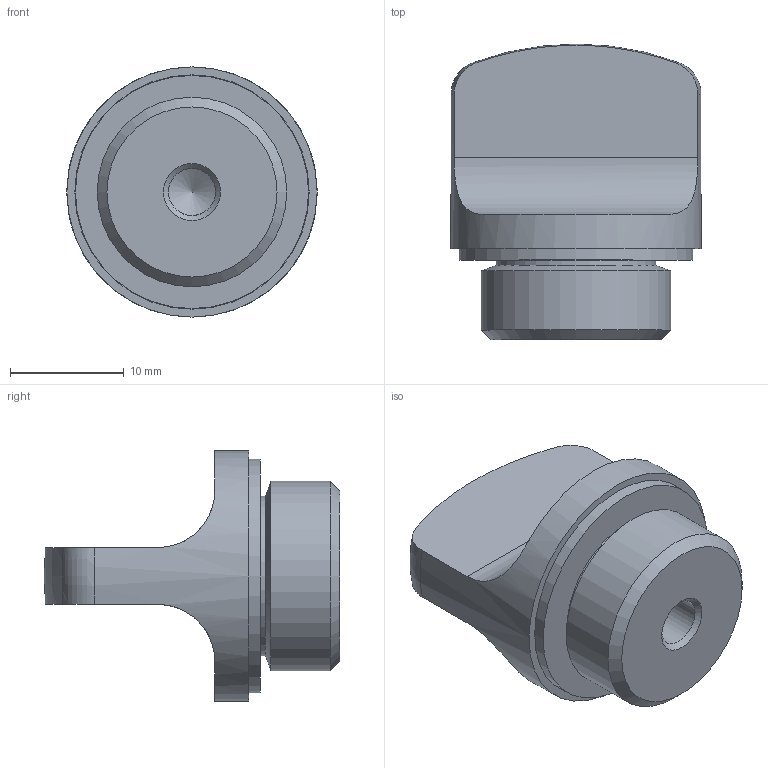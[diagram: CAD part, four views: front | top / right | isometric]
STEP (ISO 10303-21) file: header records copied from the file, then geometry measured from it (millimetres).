
FILE_DESCRIPTION( ( 'STEP AP203' ), '1' );
FILE_NAME( 'C:/Temp/Ganter_Step_05_03_2020/data/3_5/gn441/Threaded plug GN 441-22-G3_8-2-BL.stp', '2020-03-12T13:34:53', ( 'License CC BY-ND 4.0' ), ( 'CADENAS' ), ' ', 'PARTsolutions', ' ' );
FILE_SCHEMA( ( 'CONFIG_CONTROL_DESIGN' ) );
Length unit declared in the file: millimetre
Products named in the file (1): _Threaded plug GN 441-22-G3/8-2-BL
Bounding box: 22 x 26 x 22 mm (x, y, z)
Volume: 4449.1 mm3; surface area: 2727.9 mm2
Topology: 1 solids, 1 shells, 32 faces, 73 edges, 48 vertices
Faces by surface type: cylinder 13, plane 11, cone 5, torus 2, sphere 1
Full cylindrical faces by diameter (mm): 2 x1, 4.134 x1, 14 x1, 14.5 x1, 16.662 x1, 18.5 x1, 18.6 x1, 20.5 x1, 20.6 x1, 22 x1
Entity records: 979 total; most frequent: CARTESIAN_POINT 308, DIRECTION 132, ORIENTED_EDGE 100, AXIS2_PLACEMENT_3D 62, EDGE_LOOP 55, EDGE_CURVE 50, VERTEX_POINT 43, FACE_OUTER_BOUND 42
